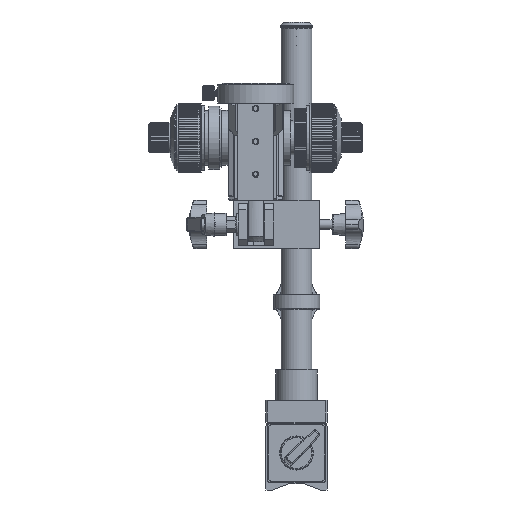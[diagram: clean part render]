
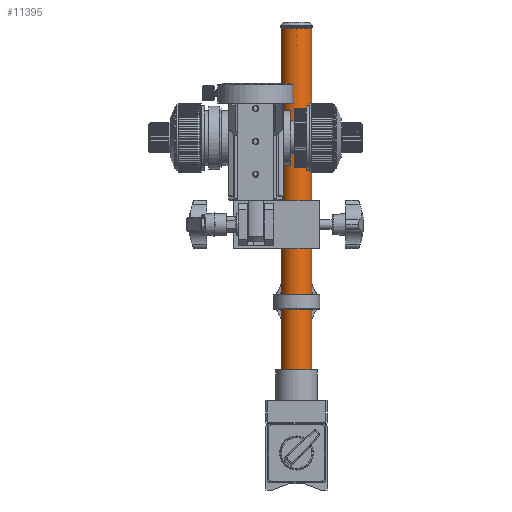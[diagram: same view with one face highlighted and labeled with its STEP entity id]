
A CAD part, front view. The second image highlights one B-rep face of the part: STEP entity #11395.
In plain terms, the highlighted cylindrical face has radius 12.5 mm (diameter 25 mm), a full revolution.
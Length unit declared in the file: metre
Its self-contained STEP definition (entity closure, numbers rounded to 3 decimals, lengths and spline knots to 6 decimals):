
#11395=ADVANCED_FACE('0:3659',(#33681,#33682),#33683,.T.);
#11885=EDGE_CURVE('0:3715',#34342,#34342,#34343,.T.);
#11887=EDGE_CURVE('0:3712',#34345,#34345,#34346,.T.);
#33681=FACE_OUTER_BOUND('',#64482,.T.);
#33682=FACE_OUTER_BOUND('',#64483,.T.);
#33683=CYLINDRICAL_SURFACE('',#64484,0.0125);
#34342=VERTEX_POINT('',#65621);
#34343=CIRCLE('',#65622,0.0125);
#34345=VERTEX_POINT('',#65625);
#34346=CIRCLE('',#65626,0.0125);
#64482=EDGE_LOOP('',(#150444));
#64483=EDGE_LOOP('',(#150445));
#64484=AXIS2_PLACEMENT_3D('',#150446,#150447,#150448);
#65621=CARTESIAN_POINT('',(0.0125,0.0578,0.378305));
#65622=AXIS2_PLACEMENT_3D('',#150867,#150868,#150869);
#65625=CARTESIAN_POINT('',(0.0125,0.0578,0.098305));
#65626=AXIS2_PLACEMENT_3D('',#150870,#150871,#150872);
#150444=ORIENTED_EDGE('',*,*,#11887,.T.);
#150445=ORIENTED_EDGE('',*,*,#11885,.F.);
#150446=CARTESIAN_POINT('',(0.0,0.0578,0.098305));
#150447=DIRECTION('',(0.0,0.,-1.0));
#150448=DIRECTION('',(1.0,0.0,0.0));
#150867=CARTESIAN_POINT('',(0.0,0.0578,0.378305));
#150868=DIRECTION('',(0.0,0.,1.0));
#150869=DIRECTION('',(1.0,0.0,0.0));
#150870=CARTESIAN_POINT('',(0.0,0.0578,0.098305));
#150871=DIRECTION('',(0.0,0.,1.0));
#150872=DIRECTION('',(1.0,0.0,0.0));
